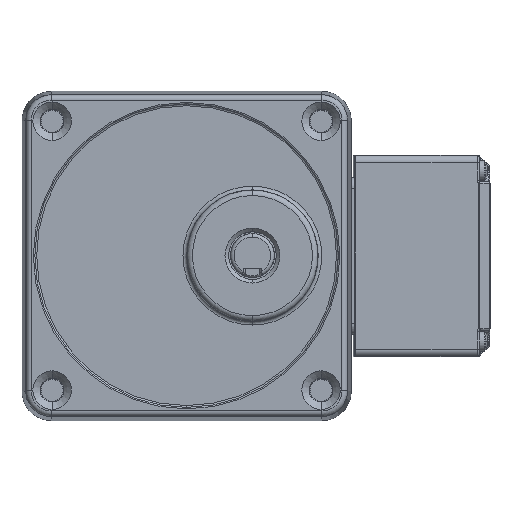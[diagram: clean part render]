
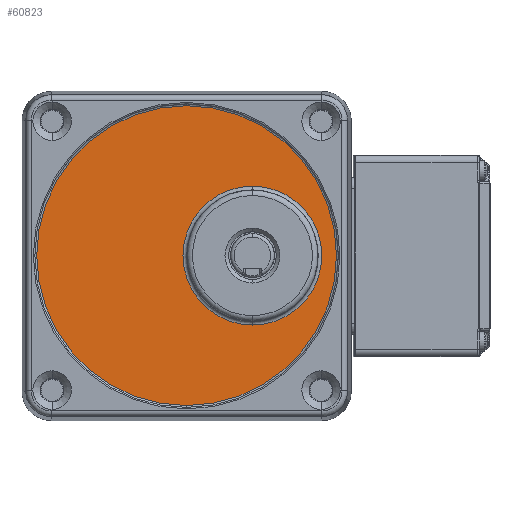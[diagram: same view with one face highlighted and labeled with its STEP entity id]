
A CAD part, top view. The second image highlights one B-rep face of the part: STEP entity #60823.
In plain terms, the highlighted planar face has unit normal (0, 0, 1) as drawn and (1, 0, 0) by its records, which use the part's own axes.
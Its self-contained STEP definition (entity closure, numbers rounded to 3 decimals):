
#3337 = EDGE_CURVE ( 'NONE', #35657, #42092, #11856, .T. ) ;
#10704 = DIRECTION ( 'NONE',  ( 0., 1., 0. ) ) ;
#11438 = CARTESIAN_POINT ( 'NONE',  ( 2697.792, -775.157, 18. ) ) ;
#11856 = CIRCLE ( 'NONE', #49141, 18.983 ) ;
#13436 = DIRECTION ( 'NONE',  ( 0., -1., 0. ) ) ;
#14515 = CARTESIAN_POINT ( 'NONE',  ( 2697.792, -775.157, 0. ) ) ;
#14953 = ORIENTED_EDGE ( 'NONE', *, *, #3337, .F. ) ;
#15716 = PLANE ( 'NONE',  #62226 ) ;
#16296 = DIRECTION ( 'NONE',  ( -1., 0., 0. ) ) ;
#17993 = CIRCLE ( 'NONE', #55268, 40.991 ) ;
#18103 = CARTESIAN_POINT ( 'NONE',  ( 2697.792, -794.14, 18. ) ) ;
#25231 = EDGE_LOOP ( 'NONE', ( #45196, #33637 ) ) ;
#28423 = EDGE_CURVE ( 'NONE', #57600, #51109, #28729, .T. ) ;
#28729 = CIRCLE ( 'NONE', #65971, 40.991 ) ;
#31799 = DIRECTION ( 'NONE',  ( 1., 0., 0. ) ) ;
#33252 = AXIS2_PLACEMENT_3D ( 'NONE', #38790, #59159, #13436 ) ;
#33637 = ORIENTED_EDGE ( 'NONE', *, *, #58636, .F. ) ;
#34836 = DIRECTION ( 'NONE',  ( -1., 0., 0. ) ) ;
#35657 = VERTEX_POINT ( 'NONE', #59774 ) ;
#36030 = CARTESIAN_POINT ( 'NONE',  ( 2697.792, -775.157, 0. ) ) ;
#36611 = DIRECTION ( 'NONE',  ( 0., 1., 0. ) ) ;
#36921 = EDGE_CURVE ( 'NONE', #42092, #35657, #61995, .T. ) ;
#38790 = CARTESIAN_POINT ( 'NONE',  ( 2697.792, -775.157, 18. ) ) ;
#41062 = FACE_OUTER_BOUND ( 'NONE', #25231, .T. ) ;
#42092 = VERTEX_POINT ( 'NONE', #18103 ) ;
#45196 = ORIENTED_EDGE ( 'NONE', *, *, #28423, .F. ) ;
#46572 = ORIENTED_EDGE ( 'NONE', *, *, #36921, .F. ) ;
#48904 = EDGE_LOOP ( 'NONE', ( #46572, #14953 ) ) ;
#49141 = AXIS2_PLACEMENT_3D ( 'NONE', #11438, #31799, #52141 ) ;
#51109 = VERTEX_POINT ( 'NONE', #64973 ) ;
#52141 = DIRECTION ( 'NONE',  ( 0., 1., 0. ) ) ;
#55207 = DIRECTION ( 'NONE',  ( 0., -1., 0. ) ) ;
#55268 = AXIS2_PLACEMENT_3D ( 'NONE', #61977, #16296, #36611 ) ;
#56432 = DIRECTION ( 'NONE',  ( 1., 0., 0. ) ) ;
#57600 = VERTEX_POINT ( 'NONE', #62741 ) ;
#58636 = EDGE_CURVE ( 'NONE', #51109, #57600, #17993, .T. ) ;
#59159 = DIRECTION ( 'NONE',  ( 1., 0., 0. ) ) ;
#59774 = CARTESIAN_POINT ( 'NONE',  ( 2697.792, -756.175, 18. ) ) ;
#60823 = ADVANCED_FACE ( 'NONE', ( #41062, #61402 ), #15716, .T. ) ;
#61402 = FACE_BOUND ( 'NONE', #48904, .T. ) ;
#61977 = CARTESIAN_POINT ( 'NONE',  ( 2697.792, -775.157, 0. ) ) ;
#61995 = CIRCLE ( 'NONE', #33252, 18.983 ) ;
#62226 = AXIS2_PLACEMENT_3D ( 'NONE', #36030, #56432, #10704 ) ;
#62741 = CARTESIAN_POINT ( 'NONE',  ( 2697.792, -816.149, 0. ) ) ;
#64973 = CARTESIAN_POINT ( 'NONE',  ( 2697.792, -734.166, 0. ) ) ;
#65971 = AXIS2_PLACEMENT_3D ( 'NONE', #14515, #34836, #55207 ) ;
